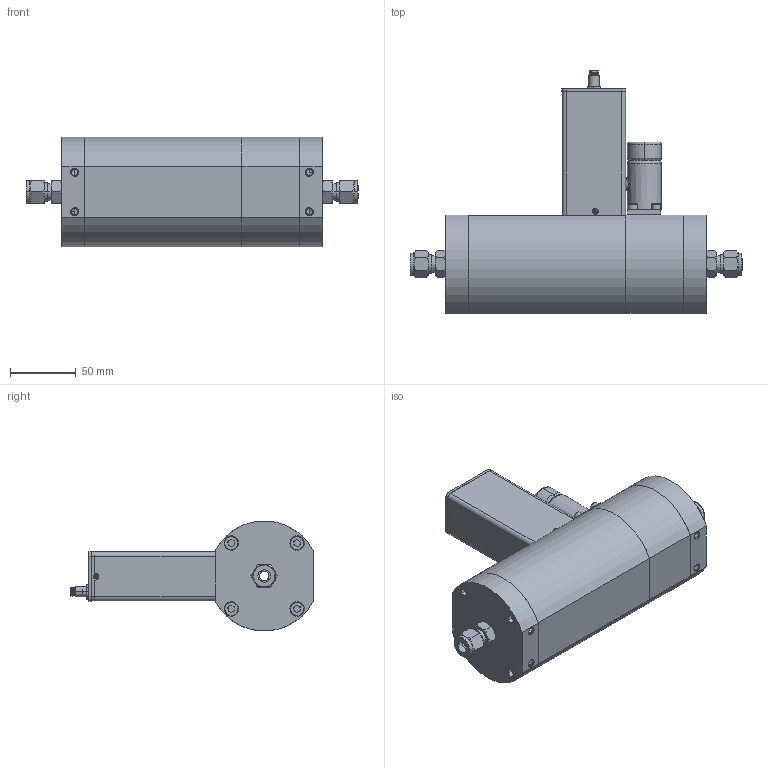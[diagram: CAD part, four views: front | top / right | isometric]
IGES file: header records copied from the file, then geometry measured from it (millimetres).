
Start section: SolidWorks IGES file using analytic representation for surfaces
Global section: file name: G:\Engineering\CAD MODELS FOR SALES\CAD MODEL STORAGE\SLA\SLA5853\IGES\SLA5853-E-2C-2-A-REVB.IGS; native system: SolidWorks 2020; preprocessor: SolidWorks 2020; author: CFehr; date: 210708.091037; units: inch
Bounding box: 253.16 x 184.92 x 83.73 mm (x, y, z)
Volume: 216999.7 mm3; surface area: 188562.4 mm2
Topology: 35 solids, 35 shells, 2256 faces, 6670 edges, 4623 vertices
Faces by surface type: plane 1265, revolution 862, bspline 129
